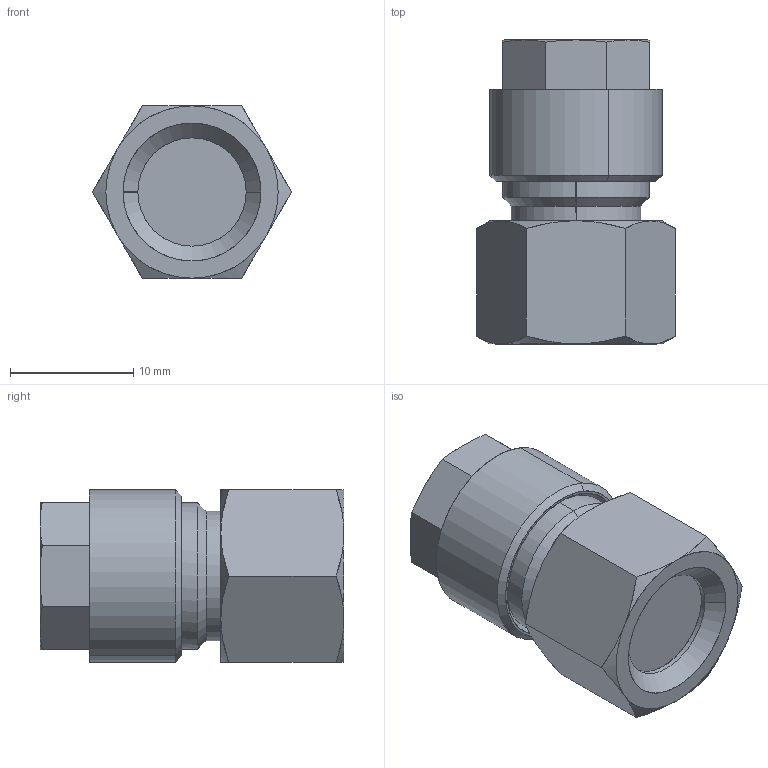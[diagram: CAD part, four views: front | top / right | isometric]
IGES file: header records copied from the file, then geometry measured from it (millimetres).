
Start section: SolidWorks IGES file using analytic representation for surfaces
Global section: file name: K:\Disegni Esecutivi\Serie 1000\Complessivi Serie 1000\1030\1030_iges\0103000004A.IGS; native system: SolidWorks 2008; preprocessor: SolidWorks 2008; author: cad05; date: 090121.182349; units: millimetre
Bounding box: 16.17 x 24.7 x 14 mm (x, y, z)
Surface area: 1586.9 mm2 (no closed solid volume)
Topology: 0 solids, 0 shells, 63 faces, 747 edges, 745 vertices
Faces by surface type: revolution 41, bspline 22
